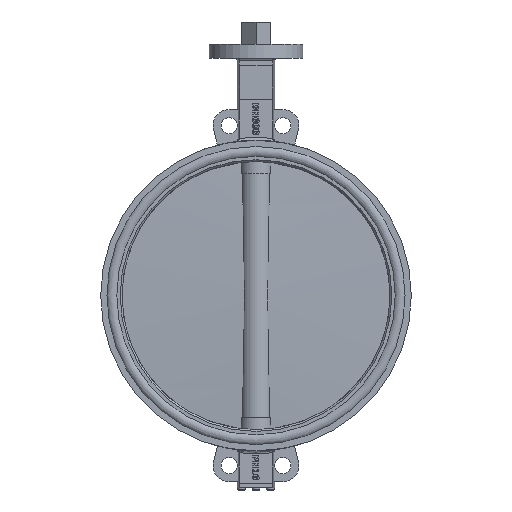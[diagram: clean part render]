
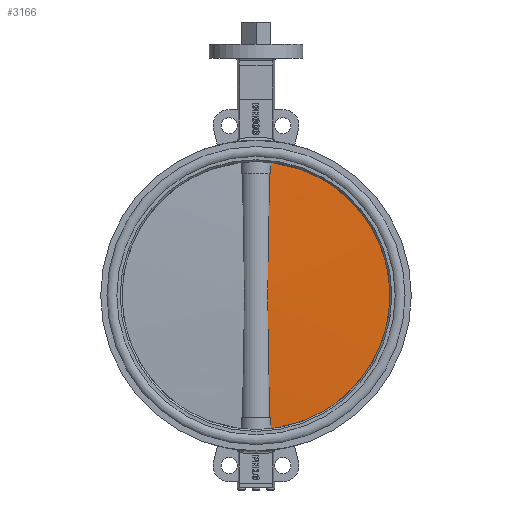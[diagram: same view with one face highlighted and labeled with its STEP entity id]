
A CAD part, left-side view. The second image highlights one B-rep face of the part: STEP entity #3166.
In plain terms, the highlighted spherical face has radius 6003.75 mm.
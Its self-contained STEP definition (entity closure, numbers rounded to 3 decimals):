
#3166=ADVANCED_FACE('',(#9699),#9701,.T.);
#9699=FACE_BOUND('',#9700,.T.);
#9700=EDGE_LOOP('',(#12892,#12893,#12894,#12895,#12896,#12897));
#9701=SPHERICAL_SURFACE('',#9702,6003.75);
#9702=AXIS2_PLACEMENT_3D('',#9703,#9704,#9705);
#9703=CARTESIAN_POINT('',(0.,-5980.75,0.));
#9704=DIRECTION('',(0.,-1.,0.));
#9705=DIRECTION('',(0.,0.,1.));
#12892=ORIENTED_EDGE('',*,*,#14119,.F.);
#12893=ORIENTED_EDGE('',*,*,#14123,.T.);
#12894=ORIENTED_EDGE('',*,*,#14106,.F.);
#12895=ORIENTED_EDGE('',*,*,#14137,.F.);
#12896=ORIENTED_EDGE('',*,*,#14138,.T.);
#12897=ORIENTED_EDGE('',*,*,#14139,.F.);
#14106=EDGE_CURVE('',#15980,#15982,#15983,.T.);
#14119=EDGE_CURVE('',#16006,#16008,#16009,.F.);
#14123=EDGE_CURVE('',#16006,#15982,#16014,.T.);
#14137=EDGE_CURVE('',#16033,#15980,#16035,.T.);
#14138=EDGE_CURVE('',#16033,#16036,#16037,.T.);
#14139=EDGE_CURVE('',#16008,#16036,#16038,.T.);
#15980=VERTEX_POINT('',#22292);
#15982=VERTEX_POINT('',#22297);
#15983=B_SPLINE_CURVE_WITH_KNOTS('',3,
(#22298,#22299,#22300,#22301,#22302,#22303,#22304,#22305,#22306,#22307,#22308,#22309,
#22310,#22311,#22312,#22313,#22314,#22315,#22316),
.UNSPECIFIED.,.F.,.F.,
(4,1,1,1,1,1,1,1,1,1,1,1,1,1,1,1,4),
(0.,0.047,0.094,0.141,0.188,0.234,
0.28,0.325,0.37,0.414,0.459,
0.505,0.552,0.6,0.683,0.816,
1.),
.UNSPECIFIED.);
#16006=VERTEX_POINT('',#22621);
#16008=VERTEX_POINT('',#22661);
#16009=B_SPLINE_CURVE_WITH_KNOTS('',3,
(#22662,#22663,#22664,#22665,#22666,#22667,#22668,#22669,#22670,#22671,#22672,#22673,
#22674,#22675,#22676,#22677,#22678,#22679,#22680),
.UNSPECIFIED.,.F.,.F.,
(4,1,1,1,1,1,1,1,1,1,1,1,1,1,1,1,4),
(0.,0.047,0.094,0.141,0.188,0.234,
0.28,0.325,0.37,0.414,0.459,
0.505,0.552,0.6,0.683,0.816,
1.),
.UNSPECIFIED.);
#16014=CIRCLE('',#22709,300.);
#16033=VERTEX_POINT('',#22806);
#16035=CIRCLE('',#22811,5997.538);
#16036=VERTEX_POINT('',#22815);
#16037=B_SPLINE_CURVE_WITH_KNOTS('',3,
(#22816,#22817,#22818,#22819,#22820,#22821,#22822,#22823,#22824,#22825,#22826,#22827,
#22828,#22829,#22830,#22831,#22832),
.UNSPECIFIED.,.F.,.F.,
(4,1,1,1,1,1,1,1,1,1,1,1,1,1,4),
(0.,0.068,0.135,0.199,0.279,0.369,
0.465,0.5,0.548,0.628,0.711,
0.801,0.881,0.948,1.),
.UNSPECIFIED.);
#16038=CIRCLE('',#22833,5997.538);
#22292=CARTESIAN_POINT('',(-32.54,16.699,273.05));
#22297=CARTESIAN_POINT('',(-33.128,15.5,298.165));
#22298=CARTESIAN_POINT('',(-32.54,16.699,273.05));
#22299=CARTESIAN_POINT('',(-32.549,16.681,273.446));
#22300=CARTESIAN_POINT('',(-32.568,16.645,274.236));
#22301=CARTESIAN_POINT('',(-32.596,16.591,275.419));
#22302=CARTESIAN_POINT('',(-32.623,16.536,276.597));
#22303=CARTESIAN_POINT('',(-32.651,16.482,277.768));
#22304=CARTESIAN_POINT('',(-32.678,16.428,278.927));
#22305=CARTESIAN_POINT('',(-32.705,16.375,280.076));
#22306=CARTESIAN_POINT('',(-32.731,16.321,281.21));
#22307=CARTESIAN_POINT('',(-32.758,16.268,282.334));
#22308=CARTESIAN_POINT('',(-32.784,16.215,283.455));
#22309=CARTESIAN_POINT('',(-32.811,16.162,284.584));
#22310=CARTESIAN_POINT('',(-32.838,16.107,285.737));
#22311=CARTESIAN_POINT('',(-32.865,16.05,286.916));
#22312=CARTESIAN_POINT('',(-32.9,15.978,288.411));
#22313=CARTESIAN_POINT('',(-32.952,15.871,290.627));
#22314=CARTESIAN_POINT('',(-33.03,15.708,293.976));
#22315=CARTESIAN_POINT('',(-33.092,15.577,296.629));
#22316=CARTESIAN_POINT('',(-33.128,15.5,298.165));
#22621=CARTESIAN_POINT('',(-33.128,15.5,-298.165));
#22661=CARTESIAN_POINT('',(-32.54,16.699,-273.05));
#22662=CARTESIAN_POINT('',(-32.54,16.699,-273.05));
#22663=CARTESIAN_POINT('',(-32.549,16.681,-273.446));
#22664=CARTESIAN_POINT('',(-32.568,16.645,-274.236));
#22665=CARTESIAN_POINT('',(-32.596,16.591,-275.419));
#22666=CARTESIAN_POINT('',(-32.623,16.536,-276.597));
#22667=CARTESIAN_POINT('',(-32.651,16.482,-277.768));
#22668=CARTESIAN_POINT('',(-32.678,16.428,-278.927));
#22669=CARTESIAN_POINT('',(-32.705,16.375,-280.076));
#22670=CARTESIAN_POINT('',(-32.731,16.321,-281.21));
#22671=CARTESIAN_POINT('',(-32.758,16.268,-282.334));
#22672=CARTESIAN_POINT('',(-32.784,16.215,-283.455));
#22673=CARTESIAN_POINT('',(-32.811,16.162,-284.584));
#22674=CARTESIAN_POINT('',(-32.838,16.107,-285.737));
#22675=CARTESIAN_POINT('',(-32.865,16.05,-286.916));
#22676=CARTESIAN_POINT('',(-32.9,15.978,-288.411));
#22677=CARTESIAN_POINT('',(-32.952,15.871,-290.627));
#22678=CARTESIAN_POINT('',(-33.03,15.708,-293.976));
#22679=CARTESIAN_POINT('',(-33.092,15.577,-296.629));
#22680=CARTESIAN_POINT('',(-33.128,15.5,-298.165));
#22709=AXIS2_PLACEMENT_3D('',#22710,#22711,#22712);
#22710=CARTESIAN_POINT('',(0.,15.5,0.));
#22711=DIRECTION('',(0.,1.,0.));
#22712=DIRECTION('',(-0.11,0.,-0.994));
#22806=CARTESIAN_POINT('',(-30.754,16.709,273.05));
#22811=AXIS2_PLACEMENT_3D('',#22812,#22813,#22814);
#22812=CARTESIAN_POINT('',(0.,-5980.75,273.05));
#22813=DIRECTION('',(0.,0.,1.));
#22814=DIRECTION('',(-0.005,1.,0.));
#22815=CARTESIAN_POINT('',(-30.754,16.709,-273.05));
#22816=CARTESIAN_POINT('',(-30.754,16.709,273.05));
#22817=CARTESIAN_POINT('',(-30.446,17.276,260.636));
#22818=CARTESIAN_POINT('',(-29.84,18.318,236.138));
#22819=CARTESIAN_POINT('',(-28.984,19.637,199.882));
#22820=CARTESIAN_POINT('',(-28.156,20.805,161.487));
#22821=CARTESIAN_POINT('',(-27.373,21.822,118.815));
#22822=CARTESIAN_POINT('',(-26.729,22.599,70.392));
#22823=CARTESIAN_POINT('',(-26.465,22.904,30.184));
#22824=CARTESIAN_POINT('',(-26.42,22.956,-2.475));
#22825=CARTESIAN_POINT('',(-26.477,22.89,-32.102));
#22826=CARTESIAN_POINT('',(-26.744,22.581,-70.5));
#22827=CARTESIAN_POINT('',(-27.334,21.869,-116.51));
#22828=CARTESIAN_POINT('',(-28.171,20.79,-162.682));
#22829=CARTESIAN_POINT('',(-29.12,19.442,-205.919));
#22830=CARTESIAN_POINT('',(-29.988,18.071,-242.11));
#22831=CARTESIAN_POINT('',(-30.521,17.137,-263.667));
#22832=CARTESIAN_POINT('',(-30.754,16.709,-273.05));
#22833=AXIS2_PLACEMENT_3D('',#22834,#22835,#22836);
#22834=CARTESIAN_POINT('',(0.,-5980.75,-273.05));
#22835=DIRECTION('',(0.,0.,-1.));
#22836=DIRECTION('',(-0.005,1.,0.));
